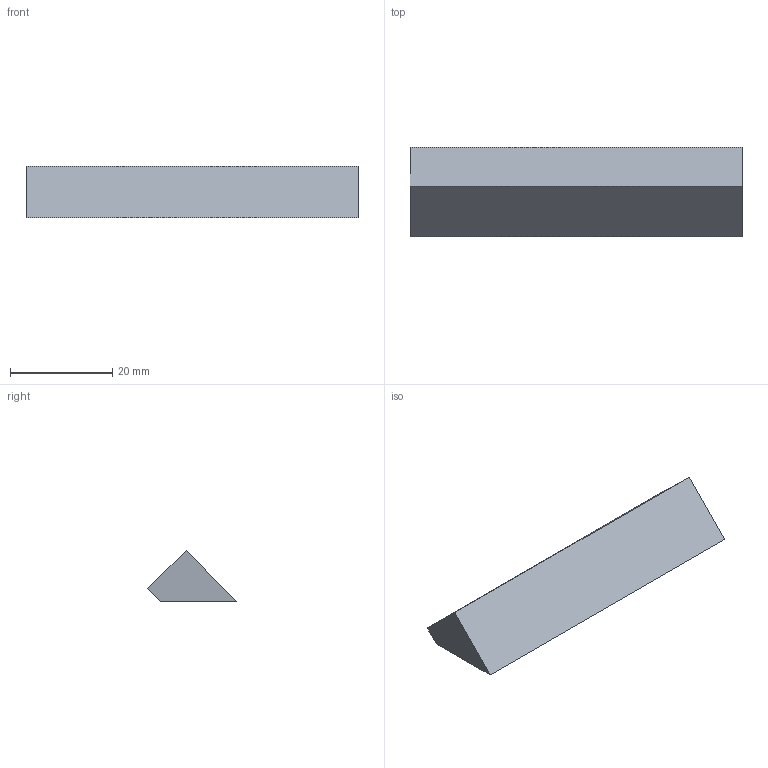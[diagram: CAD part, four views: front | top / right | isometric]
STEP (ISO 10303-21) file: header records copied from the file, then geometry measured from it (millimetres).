
FILE_DESCRIPTION(/* description */ ('STEP AP242 Edition 2','CAx-IF Rec.Pracs.---Representation and Presentation of Product Manufacturing Information (PMI)---4.0---2014-10-13','CAx-IF Rec.Pracs.---3D Tessellated Geometry---0.4---2014-09-14','2;1','CAx-IF Rec.Pracs.---User Defined Attributes---1.5---2016-08-15'),/* implementation_level */ '2;1');
FILE_NAME(/* name */ 'main - Part 47',/* time_stamp */ '2026-11-08T20:03:45Z',/* author */ (''),/* organization */ (''),/* preprocessor_version */ 'ST-DEVELOPER v20',/* originating_system */ 'ONSHAPE BY PTC INC, 1.223',/* authorisation */ ' ');
FILE_SCHEMA (('AP242_MANAGED_MODEL_BASED_3D_ENGINEERING_MIM_LF { 1 0 10303 442 3 1 4 }'));
Length unit declared in the file: metre
Products named in the file (1): Part 47
Bounding box: 65 x 17.42 x 10.02 mm (x, y, z)
Volume: 6098.2 mm3; surface area: 2994.2 mm2
Topology: 1 solids, 1 shells, 6 faces, 12 edges, 8 vertices
Faces by surface type: plane 6
Entity records: 178 total; most frequent: CARTESIAN_POINT 27, DIRECTION 26, ORIENTED_EDGE 24, EDGE_CURVE 12, LINE 12, VECTOR 12, VERTEX_POINT 8, AXIS2_PLACEMENT_3D 7
